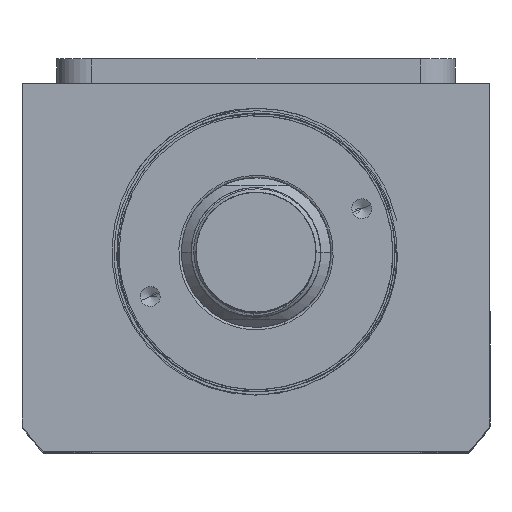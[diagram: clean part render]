
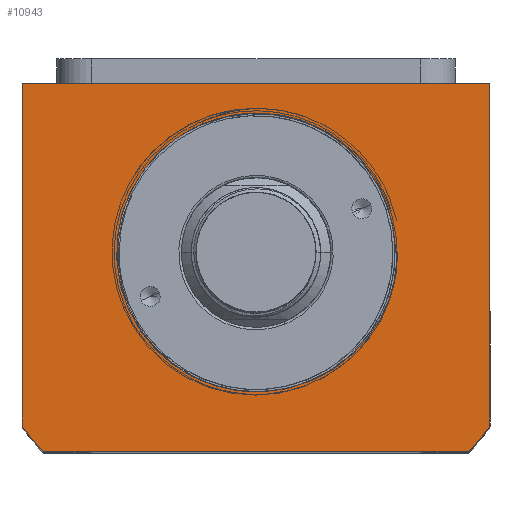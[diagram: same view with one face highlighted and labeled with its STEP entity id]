
A CAD part, top view. The second image highlights one B-rep face of the part: STEP entity #10943.
In plain terms, the highlighted planar face has unit normal (0, 0, 1).
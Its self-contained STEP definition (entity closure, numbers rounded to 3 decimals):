
#232 = CARTESIAN_POINT ( 'NONE',  ( 10.232, -26.064, 85. ) ) ;
#461 = VERTEX_POINT ( 'NONE', #16646 ) ;
#709 = AXIS2_PLACEMENT_3D ( 'NONE', #6627, #11185, #734 ) ;
#734 = DIRECTION ( 'NONE',  ( 1., 0., 0. ) ) ;
#888 = CARTESIAN_POINT ( 'NONE',  ( -47., 34., 85. ) ) ;
#972 = FACE_OUTER_BOUND ( 'NONE', #4548, .T. ) ;
#1198 = CARTESIAN_POINT ( 'NONE',  ( 10.89, -25.816, 85. ) ) ;
#1259 = AXIS2_PLACEMENT_3D ( 'NONE', #18909, #11681, #2508 ) ;
#1266 = CARTESIAN_POINT ( 'NONE',  ( 18.667, -21.077, 85. ) ) ;
#1331 = CARTESIAN_POINT ( 'NONE',  ( -47., -34.832, 85. ) ) ;
#1401 = CARTESIAN_POINT ( 'NONE',  ( 28.323, -2.832, 85. ) ) ;
#1423 = ORIENTED_EDGE ( 'NONE', *, *, #10901, .F. ) ;
#1919 = VECTOR ( 'NONE', #2374, 1000. ) ;
#2374 = DIRECTION ( 'NONE',  ( -1., 0., 0. ) ) ;
#2508 = DIRECTION ( 'NONE',  ( 1., 0., 0. ) ) ;
#2655 = VERTEX_POINT ( 'NONE', #17097 ) ;
#2656 = CARTESIAN_POINT ( 'NONE',  ( 27.887, -5.628, 85. ) ) ;
#2851 = CARTESIAN_POINT ( 'NONE',  ( 26.694, -9.657, 85. ) ) ;
#3190 = DIRECTION ( 'NONE',  ( 0., 0., -1. ) ) ;
#3383 = ORIENTED_EDGE ( 'NONE', *, *, #15990, .T. ) ;
#3418 = B_SPLINE_CURVE_WITH_KNOTS ( 'NONE', 3,
 ( #7151, #14710, #8812, #1401, #10262, #2656, #4224, #2851, #19188, #16170, #4294, #16228, #16366, #5715, #16103, #1266, #19388, #4163, #19317, #10199, #4366, #11763, #1198, #11699 ),
 .UNSPECIFIED., .F., .F.,
 ( 4, 2, 2, 2, 2, 2, 2, 2, 2, 2, 2, 4 ),
 ( 0., 0.002, 0.004, 0.009, 0.013, 0.017, 0.021, 0.023, 0.026, 0.03, 0.032, 0.034 ),
 .UNSPECIFIED. ) ;
#3424 = LINE ( 'NONE', #4483, #12111 ) ;
#4163 = CARTESIAN_POINT ( 'NONE',  ( 16.467, -22.819, 85. ) ) ;
#4224 = CARTESIAN_POINT ( 'NONE',  ( 27.555, -6.99, 85. ) ) ;
#4294 = CARTESIAN_POINT ( 'NONE',  ( 24.178, -14.712, 85. ) ) ;
#4366 = CARTESIAN_POINT ( 'NONE',  ( 12.831, -24.945, 85. ) ) ;
#4483 = CARTESIAN_POINT ( 'NONE',  ( 42.688, -40., 85. ) ) ;
#4548 = EDGE_LOOP ( 'NONE', ( #9002, #14813, #5471, #3383, #5670, #7044 ) ) ;
#4935 = CARTESIAN_POINT ( 'NONE',  ( 47., 34., 85. ) ) ;
#5087 = CIRCLE ( 'NONE', #9051, 58.5 ) ;
#5121 = EDGE_CURVE ( 'NONE', #2655, #461, #19032, .T. ) ;
#5471 = ORIENTED_EDGE ( 'NONE', *, *, #9599, .T. ) ;
#5670 = ORIENTED_EDGE ( 'NONE', *, *, #11305, .T. ) ;
#5715 = CARTESIAN_POINT ( 'NONE',  ( 20.224, -19.631, 85. ) ) ;
#5967 = VECTOR ( 'NONE', #7038, 1000. ) ;
#6284 = VERTEX_POINT ( 'NONE', #15408 ) ;
#6627 = CARTESIAN_POINT ( 'NONE',  ( 0., 0., 85. ) ) ;
#7038 = DIRECTION ( 'NONE',  ( 0., -1., 0. ) ) ;
#7044 = ORIENTED_EDGE ( 'NONE', *, *, #5121, .T. ) ;
#7151 = CARTESIAN_POINT ( 'NONE',  ( 28.495, 0., 85. ) ) ;
#7764 = VERTEX_POINT ( 'NONE', #9279 ) ;
#8559 = VERTEX_POINT ( 'NONE', #232 ) ;
#8812 = CARTESIAN_POINT ( 'NONE',  ( 28.449, -1.419, 85. ) ) ;
#8856 = VECTOR ( 'NONE', #17359, 1000. ) ;
#9002 = ORIENTED_EDGE ( 'NONE', *, *, #12040, .T. ) ;
#9051 = AXIS2_PLACEMENT_3D ( 'NONE', #16947, #11171, #15634 ) ;
#9279 = CARTESIAN_POINT ( 'NONE',  ( -47., 34., 85. ) ) ;
#9348 = AXIS2_PLACEMENT_3D ( 'NONE', #18072, #3190, #15250 ) ;
#9599 = EDGE_CURVE ( 'NONE', #10133, #15848, #11798, .T. ) ;
#10133 = VERTEX_POINT ( 'NONE', #1331 ) ;
#10199 = CARTESIAN_POINT ( 'NONE',  ( 13.459, -24.624, 85. ) ) ;
#10262 = CARTESIAN_POINT ( 'NONE',  ( 28.233, -3.538, 85. ) ) ;
#10382 = FACE_BOUND ( 'NONE', #13527, .T. ) ;
#10901 = EDGE_CURVE ( 'NONE', #6284, #10915, #12014, .T. ) ;
#10915 = VERTEX_POINT ( 'NONE', #12873 ) ;
#10928 = CIRCLE ( 'NONE', #9348, 28. ) ;
#10943 = ADVANCED_FACE ( 'NONE', ( #10382, #972 ), #11242, .T. ) ;
#11065 = VECTOR ( 'NONE', #14104, 1000. ) ;
#11171 = DIRECTION ( 'NONE',  ( 0., 0., 1. ) ) ;
#11185 = DIRECTION ( 'NONE',  ( 0., 0., 1. ) ) ;
#11242 = PLANE ( 'NONE',  #1259 ) ;
#11305 = EDGE_CURVE ( 'NONE', #11731, #2655, #5087, .T. ) ;
#11408 = CARTESIAN_POINT ( 'NONE',  ( -47., -34.832, 85. ) ) ;
#11677 = LINE ( 'NONE', #888, #8856 ) ;
#11681 = DIRECTION ( 'NONE',  ( 0., 0., 1. ) ) ;
#11699 = CARTESIAN_POINT ( 'NONE',  ( 10.232, -26.064, 85. ) ) ;
#11731 = VERTEX_POINT ( 'NONE', #16859 ) ;
#11763 = CARTESIAN_POINT ( 'NONE',  ( 11.542, -25.544, 85. ) ) ;
#11798 = CIRCLE ( 'NONE', #709, 58.5 ) ;
#12014 = LINE ( 'NONE', #12813, #1919 ) ;
#12040 = EDGE_CURVE ( 'NONE', #461, #7764, #11677, .T. ) ;
#12111 = VECTOR ( 'NONE', #16421, 1000. ) ;
#12813 = CARTESIAN_POINT ( 'NONE',  ( 0., 0., 85. ) ) ;
#12873 = CARTESIAN_POINT ( 'NONE',  ( 28., 0., 85. ) ) ;
#13527 = EDGE_LOOP ( 'NONE', ( #1423, #16005, #17859 ) ) ;
#14104 = DIRECTION ( 'NONE',  ( 0., 1., 0. ) ) ;
#14445 = CARTESIAN_POINT ( 'NONE',  ( -42.688, -40., 85. ) ) ;
#14515 = EDGE_CURVE ( 'NONE', #8559, #10915, #10928, .T. ) ;
#14710 = CARTESIAN_POINT ( 'NONE',  ( 28.485, -0.71, 85. ) ) ;
#14813 = ORIENTED_EDGE ( 'NONE', *, *, #15306, .T. ) ;
#15250 = DIRECTION ( 'NONE',  ( 1., 0., 0. ) ) ;
#15306 = EDGE_CURVE ( 'NONE', #7764, #10133, #15874, .T. ) ;
#15408 = CARTESIAN_POINT ( 'NONE',  ( 28.495, 0., 85. ) ) ;
#15634 = DIRECTION ( 'NONE',  ( 1., 0., 0. ) ) ;
#15848 = VERTEX_POINT ( 'NONE', #14445 ) ;
#15874 = LINE ( 'NONE', #11408, #5967 ) ;
#15990 = EDGE_CURVE ( 'NONE', #15848, #11731, #3424, .T. ) ;
#16005 = ORIENTED_EDGE ( 'NONE', *, *, #18039, .T. ) ;
#16103 = CARTESIAN_POINT ( 'NONE',  ( 19.714, -20.129, 85. ) ) ;
#16170 = CARTESIAN_POINT ( 'NONE',  ( 24.898, -13.504, 85. ) ) ;
#16228 = CARTESIAN_POINT ( 'NONE',  ( 22.571, -17.007, 85. ) ) ;
#16366 = CARTESIAN_POINT ( 'NONE',  ( 21.684, -18.094, 85. ) ) ;
#16421 = DIRECTION ( 'NONE',  ( 1., 0., 0. ) ) ;
#16646 = CARTESIAN_POINT ( 'NONE',  ( 47., 34., 85. ) ) ;
#16859 = CARTESIAN_POINT ( 'NONE',  ( 42.688, -40., 85. ) ) ;
#16947 = CARTESIAN_POINT ( 'NONE',  ( 0., 0., 85. ) ) ;
#17097 = CARTESIAN_POINT ( 'NONE',  ( 47., -34.832, 85. ) ) ;
#17359 = DIRECTION ( 'NONE',  ( -1., 0., 0. ) ) ;
#17859 = ORIENTED_EDGE ( 'NONE', *, *, #14515, .T. ) ;
#18039 = EDGE_CURVE ( 'NONE', #6284, #8559, #3418, .T. ) ;
#18072 = CARTESIAN_POINT ( 'NONE',  ( 0., 0., 85. ) ) ;
#18909 = CARTESIAN_POINT ( 'NONE',  ( 0., 0., 85. ) ) ;
#19032 = LINE ( 'NONE', #4935, #11065 ) ;
#19188 = CARTESIAN_POINT ( 'NONE',  ( 26.163, -10.961, 85. ) ) ;
#19317 = CARTESIAN_POINT ( 'NONE',  ( 15.3, -23.593, 85. ) ) ;
#19388 = CARTESIAN_POINT ( 'NONE',  ( 18.129, -21.529, 85. ) ) ;
